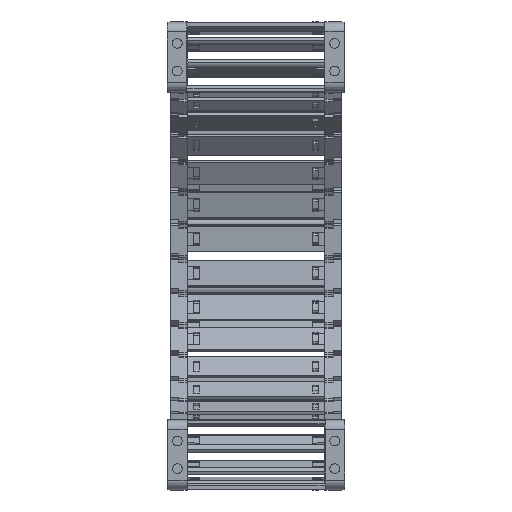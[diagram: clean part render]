
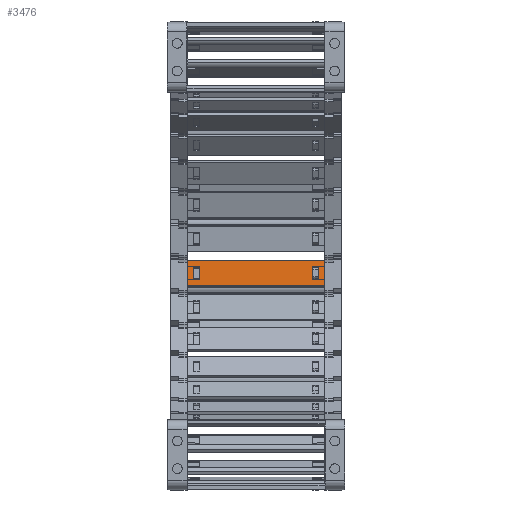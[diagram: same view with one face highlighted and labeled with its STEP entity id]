
A CAD part, left-side view. The second image highlights one B-rep face of the part: STEP entity #3476.
In plain terms, the highlighted planar face has unit normal (-0.995, 0, 0.104) as drawn and (0, 1, 0) by its records, which use the part's own axes.
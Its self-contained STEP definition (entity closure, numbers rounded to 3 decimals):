
#2845=DIRECTION('',(-1.,0.,0.));
#2846=VECTOR('',#2845,3.648);
#2847=CARTESIAN_POINT('',(66.17,1.5,4.075));
#2848=LINE('',#2847,#2846);
#2873=DIRECTION('',(1.,0.,0.));
#2874=VECTOR('',#2873,3.648);
#2875=CARTESIAN_POINT('',(62.522,1.5,-4.075));
#2876=LINE('',#2875,#2874);
#2910=DIRECTION('',(0.,0.,1.));
#2911=VECTOR('',#2910,8.15);
#2912=CARTESIAN_POINT('',(-7.142,1.5,-4.075));
#2913=LINE('',#2912,#2911);
#2931=DIRECTION('',(-1.,0.,0.));
#2932=VECTOR('',#2931,3.648);
#2933=CARTESIAN_POINT('',(-7.142,1.5,4.075));
#2934=LINE('',#2933,#2932);
#2945=DIRECTION('',(1.,0.,0.));
#2946=VECTOR('',#2945,84.9);
#2947=CARTESIAN_POINT('',(-14.76,1.5,-7.9));
#2948=LINE('',#2947,#2946);
#2952=DIRECTION('',(0.,0.,1.));
#2953=VECTOR('',#2952,8.15);
#2954=CARTESIAN_POINT('',(62.522,1.5,-4.075));
#2955=LINE('',#2954,#2953);
#2966=DIRECTION('',(0.,0.,-1.));
#2967=VECTOR('',#2966,15.8);
#2968=CARTESIAN_POINT('',(70.14,1.5,7.9));
#2969=LINE('',#2968,#2967);
#3019=DIRECTION('',(1.,0.,0.));
#3020=VECTOR('',#3019,84.9);
#3021=CARTESIAN_POINT('',(-14.76,1.5,7.9));
#3022=LINE('',#3021,#3020);
#3026=DIRECTION('',(0.,0.,1.));
#3027=VECTOR('',#3026,15.8);
#3028=CARTESIAN_POINT('',(-14.76,1.5,-7.9));
#3029=LINE('',#3028,#3027);
#3128=DIRECTION('',(0.,0.,-1.));
#3129=VECTOR('',#3128,8.15);
#3130=CARTESIAN_POINT('',(-10.79,1.5,4.075));
#3131=LINE('',#3130,#3129);
#3156=DIRECTION('',(1.,0.,0.));
#3157=VECTOR('',#3156,3.648);
#3158=CARTESIAN_POINT('',(-10.79,1.5,-4.075));
#3159=LINE('',#3158,#3157);
#3212=DIRECTION('',(0.,0.,1.));
#3213=VECTOR('',#3212,8.15);
#3214=CARTESIAN_POINT('',(66.17,1.5,-4.075));
#3215=LINE('',#3214,#3213);
#3231=CARTESIAN_POINT('',(66.17,1.5,4.075));
#3232=VERTEX_POINT('',#3231);
#3233=CARTESIAN_POINT('',(62.522,1.5,4.075));
#3234=VERTEX_POINT('',#3233);
#3242=CARTESIAN_POINT('',(70.14,1.5,7.9));
#3244=VERTEX_POINT('',#3242);
#3245=CARTESIAN_POINT('',(70.14,1.5,-7.9));
#3246=VERTEX_POINT('',#3245);
#3255=CARTESIAN_POINT('',(62.522,1.5,-4.075));
#3256=VERTEX_POINT('',#3255);
#3257=CARTESIAN_POINT('',(66.17,1.5,-4.075));
#3258=VERTEX_POINT('',#3257);
#3260=CARTESIAN_POINT('',(-14.76,1.5,7.9));
#3262=VERTEX_POINT('',#3260);
#3263=CARTESIAN_POINT('',(-14.76,1.5,-7.9));
#3264=VERTEX_POINT('',#3263);
#3275=CARTESIAN_POINT('',(-7.142,1.5,-4.075));
#3276=CARTESIAN_POINT('',(-7.142,1.5,4.075));
#3277=VERTEX_POINT('',#3275);
#3278=VERTEX_POINT('',#3276);
#3279=CARTESIAN_POINT('',(-10.79,1.5,-4.075));
#3280=VERTEX_POINT('',#3279);
#3281=CARTESIAN_POINT('',(-10.79,1.5,4.075));
#3282=VERTEX_POINT('',#3281);
#3446=CARTESIAN_POINT('',(101.88,1.5,10.061));
#3447=DIRECTION('',(0.,-1.,0.));
#3448=DIRECTION('',(0.,0.,-1.));
#3449=AXIS2_PLACEMENT_3D('',#3446,#3447,#3448);
#3450=PLANE('',#3449);
#3452=ORIENTED_EDGE('',*,*,#3451,.F.);
#3454=ORIENTED_EDGE('',*,*,#3453,.F.);
#3456=ORIENTED_EDGE('',*,*,#3455,.F.);
#3458=ORIENTED_EDGE('',*,*,#3457,.T.);
#3459=EDGE_LOOP('',(#3452,#3454,#3456,#3458));
#3460=FACE_OUTER_BOUND('',#3459,.F.);
#3461=ORIENTED_EDGE('',*,*,#3325,.T.);
#3462=ORIENTED_EDGE('',*,*,#3303,.F.);
#3464=ORIENTED_EDGE('',*,*,#3463,.F.);
#3465=ORIENTED_EDGE('',*,*,#3345,.F.);
#3466=EDGE_LOOP('',(#3461,#3462,#3464,#3465));
#3467=FACE_BOUND('',#3466,.F.);
#3468=ORIENTED_EDGE('',*,*,#3409,.F.);
#3470=ORIENTED_EDGE('',*,*,#3469,.F.);
#3472=ORIENTED_EDGE('',*,*,#3471,.F.);
#3473=ORIENTED_EDGE('',*,*,#3428,.F.);
#3474=EDGE_LOOP('',(#3468,#3470,#3472,#3473));
#3475=FACE_BOUND('',#3474,.F.);
#3476=ADVANCED_FACE('',(#3460,#3467,#3475),#3450,.F.);
#3303=EDGE_CURVE('',#3232,#3234,#2848,.T.);
#3325=EDGE_CURVE('',#3256,#3234,#2955,.T.);
#3345=EDGE_CURVE('',#3256,#3258,#2876,.T.);
#3409=EDGE_CURVE('',#3277,#3278,#2913,.T.);
#3428=EDGE_CURVE('',#3278,#3282,#2934,.T.);
#3451=EDGE_CURVE('',#3244,#3246,#2969,.T.);
#3453=EDGE_CURVE('',#3262,#3244,#3022,.T.);
#3455=EDGE_CURVE('',#3264,#3262,#3029,.T.);
#3457=EDGE_CURVE('',#3264,#3246,#2948,.T.);
#3463=EDGE_CURVE('',#3258,#3232,#3215,.T.);
#3469=EDGE_CURVE('',#3280,#3277,#3159,.T.);
#3471=EDGE_CURVE('',#3282,#3280,#3131,.T.);
